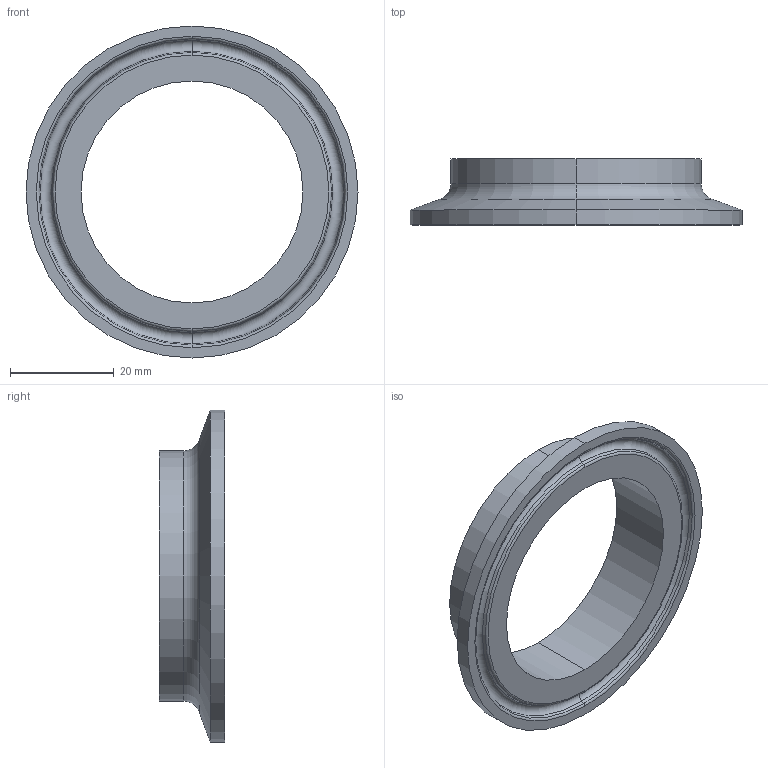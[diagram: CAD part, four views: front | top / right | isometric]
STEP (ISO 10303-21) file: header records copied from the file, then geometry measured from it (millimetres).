
FILE_DESCRIPTION (( 'STEP AP214' ), '1' );
FILE_NAME ('EG2CS-10-1.5.STEP', '2025-07-30T17:56:35', ( '' ), ( '' ), 'SwSTEP 2.0', 'SolidWorks 2022', '' );
FILE_SCHEMA (( 'AUTOMOTIVE_DESIGN' ));
Length unit declared in the file: inch
Products named in the file (1): EG2CS-10-1.5
Bounding box: 63.91 x 12.7 x 63.91 mm (x, y, z)
Volume: 10348.5 mm3; surface area: 7173.9 mm2
Topology: 1 solids, 1 shells, 23 faces, 46 edges, 26 vertices
Faces by surface type: torus 8, cylinder 6, cone 6, plane 3
Entity records: 646 total; most frequent: DIRECTION 128, CARTESIAN_POINT 96, ORIENTED_EDGE 92, AXIS2_PLACEMENT_3D 58, EDGE_CURVE 46, CIRCLE 34, EDGE_LOOP 26, VERTEX_POINT 26
